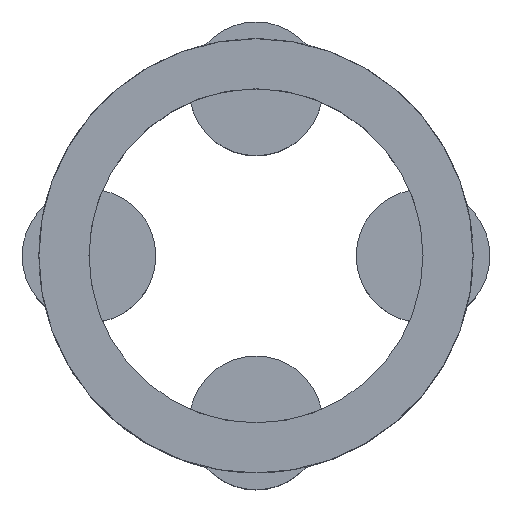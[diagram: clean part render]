
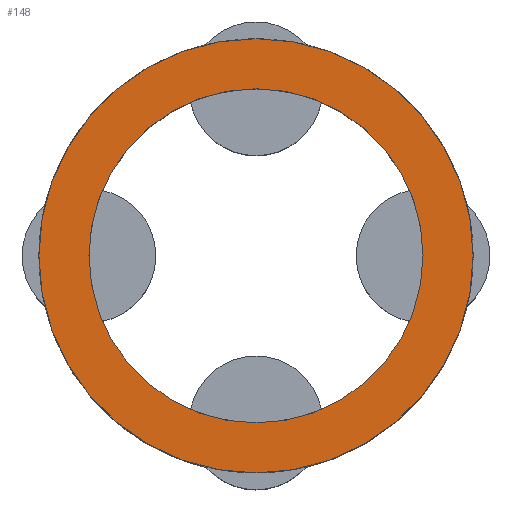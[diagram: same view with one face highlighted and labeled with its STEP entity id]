
A CAD part, top view. The second image highlights one B-rep face of the part: STEP entity #148.
In plain terms, the highlighted planar face has unit normal (0, 0, 1).
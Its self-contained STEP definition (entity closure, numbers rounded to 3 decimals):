
#103=PLANE('',#738);
#127=FACE_BOUND('',#245,.T.);
#128=FACE_BOUND('',#246,.T.);
#148=ADVANCED_FACE('',(#127,#128),#103,.T.);
#245=EDGE_LOOP('',(#375));
#246=EDGE_LOOP('',(#376));
#375=ORIENTED_EDGE('',*,*,#534,.F.);
#376=ORIENTED_EDGE('',*,*,#587,.T.);
#482=VERTEX_POINT('',#1040);
#527=VERTEX_POINT('',#1150);
#534=EDGE_CURVE('',#482,#482,#616,.T.);
#587=EDGE_CURVE('',#527,#527,#655,.T.);
#616=CIRCLE('',#686,5.);
#655=CIRCLE('',#737,6.5);
#686=AXIS2_PLACEMENT_3D('',#1039,#803,#804);
#737=AXIS2_PLACEMENT_3D('',#1149,#919,#920);
#738=AXIS2_PLACEMENT_3D('',#1151,#921,#922);
#803=DIRECTION('',(0.,0.,1.));
#804=DIRECTION('',(1.,0.,0.));
#919=DIRECTION('',(0.,0.,1.));
#920=DIRECTION('',(1.,0.,0.));
#921=DIRECTION('',(0.,0.,1.));
#922=DIRECTION('',(1.,0.,0.));
#1039=CARTESIAN_POINT('',(0.,0.,6.));
#1040=CARTESIAN_POINT('',(5.,0.,6.));
#1149=CARTESIAN_POINT('',(0.,0.,6.));
#1150=CARTESIAN_POINT('',(6.5,0.,6.));
#1151=CARTESIAN_POINT('',(0.,0.,6.));
